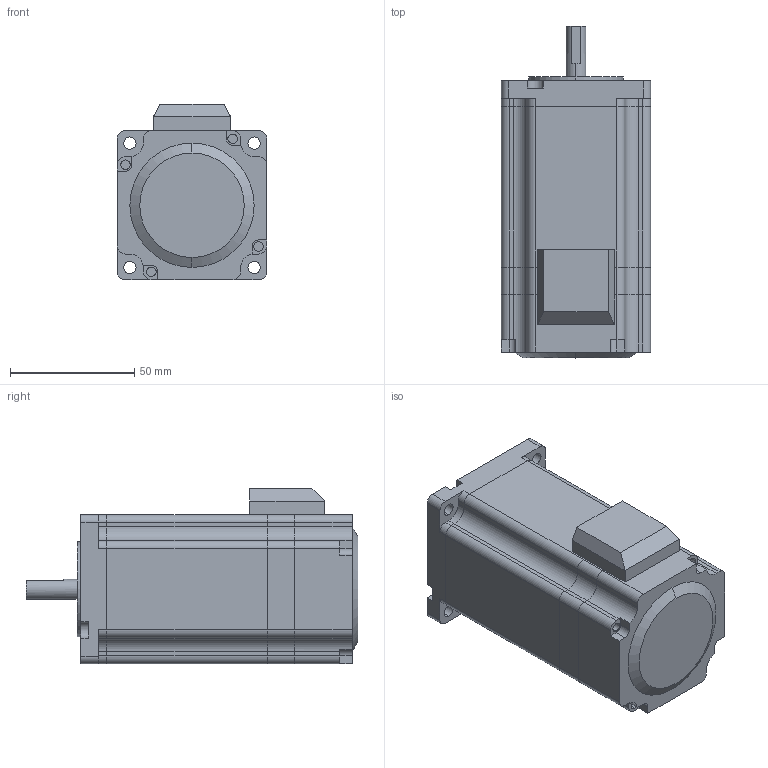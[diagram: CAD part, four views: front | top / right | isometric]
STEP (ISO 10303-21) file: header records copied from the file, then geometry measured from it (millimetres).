
FILE_DESCRIPTION (( 'STEP AP214' ), '1' );
FILE_NAME ('60A3ED-57£¨D57HSM86D-D0822-003£©.STEP', '2020-05-07T07:42:26', ( 'wimxt.com' ), ( 'wimxt.com' ), 'SwSTEP 2.0', 'SolidWorks 2014', '' );
FILE_SCHEMA (( 'AUTOMOTIVE_DESIGN' ));
Length unit declared in the file: millimetre
Products named in the file (6): 60A3EC誘盄杶; 60敕遠綴欶; 60-57傷裔; 60A3EC菁釱; 60A3EC隅赽; 60A3ED-57（D57HSM86D-D0822-003）
Assembly tree (5 placements, depth 2):
  60A3ED-57（D57HSM86D-D0822-003）
    60A3EC隅赽
    60A3EC菁釱
    60-57傷裔
    60敕遠綴欶
    60A3EC誘盄杶
Bounding box: 60 x 133.5 x 70.7 mm (x, y, z)
Volume: 133162.7 mm3; surface area: 74547.9 mm2
Topology: 5 solids, 5 shells, 322 faces, 881 edges, 587 vertices
Faces by surface type: plane 165, cylinder 153, torus 2, cone 2
Entity records: 10735 total; most frequent: DIRECTION 1870, CARTESIAN_POINT 1798, ORIENTED_EDGE 1762, EDGE_CURVE 881, AXIS2_PLACEMENT_3D 659, VERTEX_POINT 587, VECTOR 552, LINE 552
